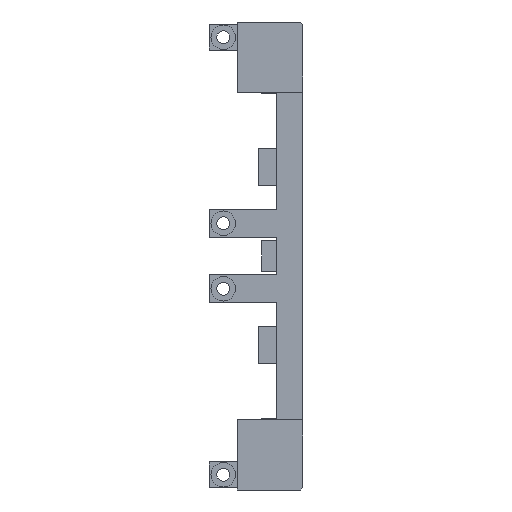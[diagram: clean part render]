
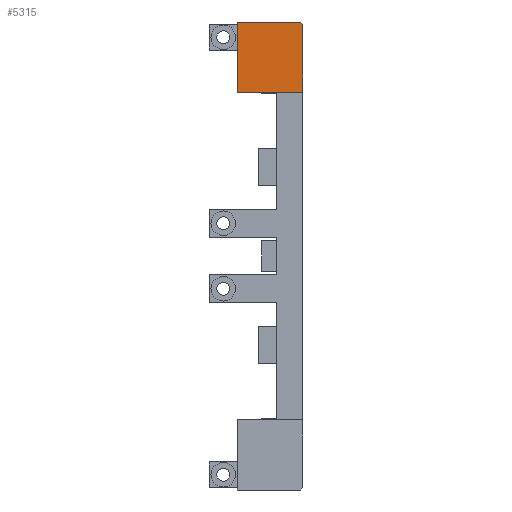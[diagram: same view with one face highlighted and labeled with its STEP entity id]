
A CAD part, front view. The second image highlights one B-rep face of the part: STEP entity #5315.
In plain terms, the highlighted planar face has unit normal (0, -1, 0).
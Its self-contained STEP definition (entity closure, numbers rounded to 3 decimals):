
#44 = PLANE('',#45);
#45 = AXIS2_PLACEMENT_3D('',#46,#47,#48);
#46 = CARTESIAN_POINT('',(112.,-20.,188.));
#47 = DIRECTION('',(1.,0.,0.));
#48 = DIRECTION('',(0.,0.,1.));
#72 = PLANE('',#73);
#73 = AXIS2_PLACEMENT_3D('',#74,#75,#76);
#74 = CARTESIAN_POINT('',(138.8,-17.,200.));
#75 = DIRECTION('',(0.,0.,1.));
#76 = DIRECTION('',(1.,0.,0.));
#99 = PLANE('',#100);
#100 = AXIS2_PLACEMENT_3D('',#101,#102,#103);
#101 = CARTESIAN_POINT('',(138.,-21.,201.));
#102 = DIRECTION('',(-0.707,-0.,-0.707));
#103 = DIRECTION('',(0.707,0.,-0.707));
#126 = PLANE('',#127);
#127 = AXIS2_PLACEMENT_3D('',#128,#129,#130);
#128 = CARTESIAN_POINT('',(140.,-17.,0.));
#129 = DIRECTION('',(1.,0.,0.));
#130 = DIRECTION('',(0.,0.,1.));
#1183 = VERTEX_POINT('',#1184);
#1184 = CARTESIAN_POINT('',(112.,-20.,200.));
#1205 = EDGE_CURVE('',#1206,#1183,#1208,.T.);
#1206 = VERTEX_POINT('',#1207);
#1207 = CARTESIAN_POINT('',(112.,-20.,170.));
#1208 = SURFACE_CURVE('',#1209,(#1213,#1220),.PCURVE_S1.);
#1209 = LINE('',#1210,#1211);
#1210 = CARTESIAN_POINT('',(112.,-20.,170.));
#1211 = VECTOR('',#1212,1.);
#1212 = DIRECTION('',(0.,0.,1.));
#1213 = PCURVE('',#44,#1214);
#1214 = DEFINITIONAL_REPRESENTATION('',(#1215),#1219);
#1215 = LINE('',#1216,#1217);
#1216 = CARTESIAN_POINT('',(-18.,0.));
#1217 = VECTOR('',#1218,1.);
#1218 = DIRECTION('',(1.,0.));
#1219 = ( GEOMETRIC_REPRESENTATION_CONTEXT(2) 
PARAMETRIC_REPRESENTATION_CONTEXT() REPRESENTATION_CONTEXT('2D SPACE',''
  ) );
#1220 = PCURVE('',#1221,#1226);
#1221 = PLANE('',#1222);
#1222 = AXIS2_PLACEMENT_3D('',#1223,#1224,#1225);
#1223 = CARTESIAN_POINT('',(112.,-20.,188.));
#1224 = DIRECTION('',(0.,1.,0.));
#1225 = DIRECTION('',(0.,0.,1.));
#1226 = DEFINITIONAL_REPRESENTATION('',(#1227),#1231);
#1227 = LINE('',#1228,#1229);
#1228 = CARTESIAN_POINT('',(-18.,0.));
#1229 = VECTOR('',#1230,1.);
#1230 = DIRECTION('',(1.,0.));
#1231 = ( GEOMETRIC_REPRESENTATION_CONTEXT(2) 
PARAMETRIC_REPRESENTATION_CONTEXT() REPRESENTATION_CONTEXT('2D SPACE',''
  ) );
#1249 = PLANE('',#1250);
#1250 = AXIS2_PLACEMENT_3D('',#1251,#1252,#1253);
#1251 = CARTESIAN_POINT('',(112.,-20.,170.));
#1252 = DIRECTION('',(0.,0.,1.));
#1253 = DIRECTION('',(1.,0.,0.));
#1416 = EDGE_CURVE('',#1183,#1417,#1419,.T.);
#1417 = VERTEX_POINT('',#1418);
#1418 = CARTESIAN_POINT('',(139.,-20.,200.));
#1419 = SURFACE_CURVE('',#1420,(#1424,#1431),.PCURVE_S1.);
#1420 = LINE('',#1421,#1422);
#1421 = CARTESIAN_POINT('',(112.,-20.,200.));
#1422 = VECTOR('',#1423,1.);
#1423 = DIRECTION('',(1.,0.,0.));
#1424 = PCURVE('',#72,#1425);
#1425 = DEFINITIONAL_REPRESENTATION('',(#1426),#1430);
#1426 = LINE('',#1427,#1428);
#1427 = CARTESIAN_POINT('',(-26.8,-3.));
#1428 = VECTOR('',#1429,1.);
#1429 = DIRECTION('',(1.,0.));
#1430 = ( GEOMETRIC_REPRESENTATION_CONTEXT(2) 
PARAMETRIC_REPRESENTATION_CONTEXT() REPRESENTATION_CONTEXT('2D SPACE',''
  ) );
#1431 = PCURVE('',#1221,#1432);
#1432 = DEFINITIONAL_REPRESENTATION('',(#1433),#1437);
#1433 = LINE('',#1434,#1435);
#1434 = CARTESIAN_POINT('',(12.,0.));
#1435 = VECTOR('',#1436,1.);
#1436 = DIRECTION('',(0.,1.));
#1437 = ( GEOMETRIC_REPRESENTATION_CONTEXT(2) 
PARAMETRIC_REPRESENTATION_CONTEXT() REPRESENTATION_CONTEXT('2D SPACE',''
  ) );
#1960 = VERTEX_POINT('',#1961);
#1961 = CARTESIAN_POINT('',(140.,-20.,199.));
#1980 = EDGE_CURVE('',#1960,#1417,#1981,.T.);
#1981 = SURFACE_CURVE('',#1982,(#1986,#1992),.PCURVE_S1.);
#1982 = LINE('',#1983,#1984);
#1983 = CARTESIAN_POINT('',(134.75,-20.,204.25));
#1984 = VECTOR('',#1985,1.);
#1985 = DIRECTION('',(-0.707,0.,0.707));
#1986 = PCURVE('',#99,#1987);
#1987 = DEFINITIONAL_REPRESENTATION('',(#1988),#1991);
#1988 = B_SPLINE_CURVE_WITH_KNOTS('',1,(#1989,#1990),.UNSPECIFIED.,.F.,
  .F.,(2,2),(-7.425,-6.01),.PIECEWISE_BEZIER_KNOTS.);
#1989 = CARTESIAN_POINT('',(2.828,-1.));
#1990 = CARTESIAN_POINT('',(1.414,-1.));
#1991 = ( GEOMETRIC_REPRESENTATION_CONTEXT(2) 
PARAMETRIC_REPRESENTATION_CONTEXT() REPRESENTATION_CONTEXT('2D SPACE',''
  ) );
#1992 = PCURVE('',#1221,#1993);
#1993 = DEFINITIONAL_REPRESENTATION('',(#1994),#1997);
#1994 = B_SPLINE_CURVE_WITH_KNOTS('',1,(#1995,#1996),.UNSPECIFIED.,.F.,
  .F.,(2,2),(-7.425,-6.01),.PIECEWISE_BEZIER_KNOTS.);
#1995 = CARTESIAN_POINT('',(11.,28.));
#1996 = CARTESIAN_POINT('',(12.,27.));
#1997 = ( GEOMETRIC_REPRESENTATION_CONTEXT(2) 
PARAMETRIC_REPRESENTATION_CONTEXT() REPRESENTATION_CONTEXT('2D SPACE',''
  ) );
#2052 = EDGE_CURVE('',#1960,#2053,#2055,.T.);
#2053 = VERTEX_POINT('',#2054);
#2054 = CARTESIAN_POINT('',(140.,-20.,170.));
#2055 = SURFACE_CURVE('',#2056,(#2060,#2067),.PCURVE_S1.);
#2056 = LINE('',#2057,#2058);
#2057 = CARTESIAN_POINT('',(140.,-20.,200.));
#2058 = VECTOR('',#2059,1.);
#2059 = DIRECTION('',(0.,0.,-1.));
#2060 = PCURVE('',#126,#2061);
#2061 = DEFINITIONAL_REPRESENTATION('',(#2062),#2066);
#2062 = LINE('',#2063,#2064);
#2063 = CARTESIAN_POINT('',(200.,3.));
#2064 = VECTOR('',#2065,1.);
#2065 = DIRECTION('',(-1.,0.));
#2066 = ( GEOMETRIC_REPRESENTATION_CONTEXT(2) 
PARAMETRIC_REPRESENTATION_CONTEXT() REPRESENTATION_CONTEXT('2D SPACE',''
  ) );
#2067 = PCURVE('',#1221,#2068);
#2068 = DEFINITIONAL_REPRESENTATION('',(#2069),#2073);
#2069 = LINE('',#2070,#2071);
#2070 = CARTESIAN_POINT('',(12.,28.));
#2071 = VECTOR('',#2072,1.);
#2072 = DIRECTION('',(-1.,0.));
#2073 = ( GEOMETRIC_REPRESENTATION_CONTEXT(2) 
PARAMETRIC_REPRESENTATION_CONTEXT() REPRESENTATION_CONTEXT('2D SPACE',''
  ) );
#5201 = EDGE_CURVE('',#1206,#2053,#5202,.T.);
#5202 = SURFACE_CURVE('',#5203,(#5207,#5214),.PCURVE_S1.);
#5203 = LINE('',#5204,#5205);
#5204 = CARTESIAN_POINT('',(112.,-20.,170.));
#5205 = VECTOR('',#5206,1.);
#5206 = DIRECTION('',(1.,0.,0.));
#5207 = PCURVE('',#1249,#5208);
#5208 = DEFINITIONAL_REPRESENTATION('',(#5209),#5213);
#5209 = LINE('',#5210,#5211);
#5210 = CARTESIAN_POINT('',(0.,0.));
#5211 = VECTOR('',#5212,1.);
#5212 = DIRECTION('',(1.,0.));
#5213 = ( GEOMETRIC_REPRESENTATION_CONTEXT(2) 
PARAMETRIC_REPRESENTATION_CONTEXT() REPRESENTATION_CONTEXT('2D SPACE',''
  ) );
#5214 = PCURVE('',#1221,#5215);
#5215 = DEFINITIONAL_REPRESENTATION('',(#5216),#5220);
#5216 = LINE('',#5217,#5218);
#5217 = CARTESIAN_POINT('',(-18.,0.));
#5218 = VECTOR('',#5219,1.);
#5219 = DIRECTION('',(0.,1.));
#5220 = ( GEOMETRIC_REPRESENTATION_CONTEXT(2) 
PARAMETRIC_REPRESENTATION_CONTEXT() REPRESENTATION_CONTEXT('2D SPACE',''
  ) );
#5315 = ADVANCED_FACE('',(#5316),#1221,.F.);
#5316 = FACE_BOUND('',#5317,.F.);
#5317 = EDGE_LOOP('',(#5318,#5319,#5320,#5321,#5322));
#5318 = ORIENTED_EDGE('',*,*,#1980,.F.);
#5319 = ORIENTED_EDGE('',*,*,#2052,.T.);
#5320 = ORIENTED_EDGE('',*,*,#5201,.F.);
#5321 = ORIENTED_EDGE('',*,*,#1205,.T.);
#5322 = ORIENTED_EDGE('',*,*,#1416,.T.);
